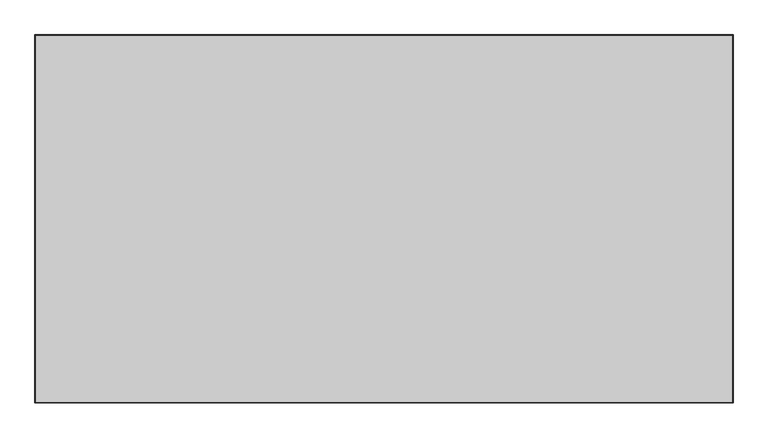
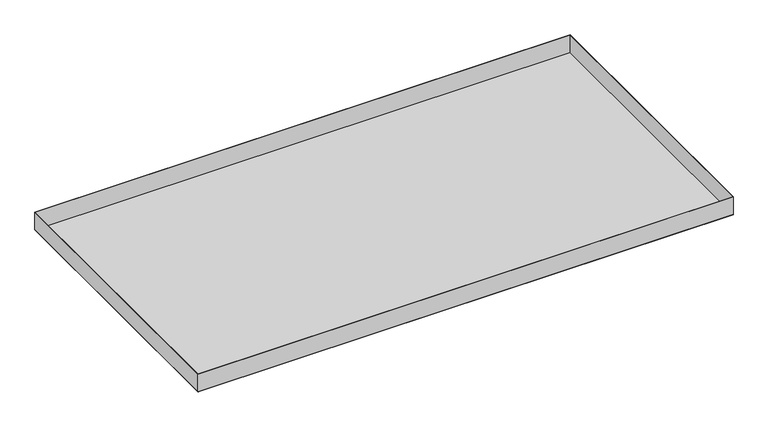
"""IFC4 building model written with IfcOpenShell, lengths in millimetres: proxy geometry, durlum_S-OM-63 : durlum_S-OM-63_panel."""

import ifcopenshell
import ifcopenshell.guid

model = None  # the IFC model being written
_history = None  # IfcOwnerHistory: only IFC2X3 demands one
_inside = {}  # id of a spatial element -> (the spatial element, [elements in it])
_under = {}  # id of a project, library or spatial element -> (it, [spatial elements below it])
_declared = {}  # id of a project -> (the project, [libraries it declares])
_typed = {}  # id of a type object -> (the type object, [elements of that type])
_made_of = {}  # id of a material, layer set ... -> (it, [elements and type objects made of it])


def new_model(schema):
    """Start an empty IFC model of exactly this schema.

    Asked for "IFC4X3", IfcOpenShell would pick the latest addendum, in which some entities
    have other attributes; the version numbers below select the first issue.
    IFC2X3 requires an IfcOwnerHistory on every rooted entity: one is made here for all.
    """
    global model, _history
    if schema == "IFC4X3":
        model = ifcopenshell.file(schema_version=(4, 3, 0, 0))
    else:
        model = ifcopenshell.file(schema=schema)
    _inside.clear()
    _under.clear()
    _declared.clear()
    _typed.clear()
    _made_of.clear()
    _history = None
    if model.schema == "IFC2X3":
        org = make("IfcOrganization", Name="unknown")
        user = make(
            "IfcPersonAndOrganization",
            ThePerson=make("IfcPerson", FamilyName="unknown"),
            TheOrganization=org,
        )
        app = make(
            "IfcApplication",
            ApplicationDeveloper=org,
            Version="unknown",
            ApplicationFullName="unknown",
            ApplicationIdentifier="unknown",
        )
        _history = make(
            "IfcOwnerHistory",
            OwningUser=user,
            OwningApplication=app,
            ChangeAction="ADDED",
            CreationDate=0,
        )
    return model


def make(cls, **values):
    """One entity of the class cls with the attributes given. An attribute that is None is left unset."""
    return model.create_entity(
        cls, **{name: value for name, value in values.items() if value is not None}
    )


def rooted(cls, **values):
    """An entity with a GlobalId (a new one), such as an element, a storey or a relation."""
    return make(cls, GlobalId=ifcopenshell.guid.new(), OwnerHistory=_history, **values)


def si_unit(unit_type, name, prefix=None):
    """IfcSIUnit, for example si_unit("LENGTHUNIT", "METRE", prefix="MILLI")."""
    return make("IfcSIUnit", UnitType=unit_type, Prefix=prefix, Name=name)


def assignment(units):
    """IfcUnitAssignment: the units of a project."""
    return None if units is None else make("IfcUnitAssignment", Units=units)


def point(xyz):
    """IfcCartesianPoint."""
    return None if xyz is None else make("IfcCartesianPoint", Coordinates=xyz)


def direction(xyz):
    """IfcDirection."""
    return None if xyz is None else make("IfcDirection", DirectionRatios=xyz)


def frame(location, z_axis=None, x_axis=None):
    """IfcAxis2Placement3D, a coordinate frame: its origin and axes. An axis left out is left unset."""
    return make(
        "IfcAxis2Placement3D",
        Location=point(location),
        Axis=direction(z_axis),
        RefDirection=direction(x_axis),
    )


def origin():
    """The frame at (0, 0, 0) with its axes left unset."""
    return frame((0.0, 0.0, 0.0))


def origin_with_axes():
    """The frame at (0, 0, 0) with the z axis (0, 0, 1) and the x axis (1, 0, 0) written out."""
    return frame((0.0, 0.0, 0.0), z_axis=(0.0, 0.0, 1.0), x_axis=(1.0, 0.0, 0.0))


def place(relative_to, where):
    """IfcLocalPlacement: puts the frame where relative to a parent placement (None: the world)."""
    return make(
        "IfcLocalPlacement", PlacementRelTo=relative_to, RelativePlacement=where
    )


def context(
    kind, dimensions, precision=None, world=None, true_north=None, identifier=None
):
    """IfcGeometricRepresentationContext, for example the 3D "Model" context."""
    return make(
        "IfcGeometricRepresentationContext",
        ContextIdentifier=identifier,
        ContextType=kind,
        CoordinateSpaceDimension=dimensions,
        Precision=precision,
        WorldCoordinateSystem=world,
        TrueNorth=true_north,
    )


def project(units=None, contexts=None):
    """IfcProject with its units and contexts."""
    return rooted(
        "IfcProject",
        Name="project",
        RepresentationContexts=contexts,
        UnitsInContext=assignment(units),
    )


def spatial(cls, under=None, at=None, **own):
    """A site, building, storey or space (cls), placed at a placement, below another one or the project."""
    s = rooted(cls, ObjectPlacement=at, **own)
    if under is not None:
        _under.setdefault(under.id(), (under, []))[1].append(s)
    return s


def polyline(points):
    """IfcPolyline through the points."""
    return make("IfcPolyline", Points=[point(p) for p in points])


def outline(outer, holes=None, kind="AREA"):
    """IfcArbitraryClosedProfileDef: a profile drawn as a closed curve; with holes, ...WithVoids."""
    if holes is None:
        return make("IfcArbitraryClosedProfileDef", ProfileType=kind, OuterCurve=outer)
    return make(
        "IfcArbitraryProfileDefWithVoids",
        ProfileType=kind,
        OuterCurve=outer,
        InnerCurves=holes,
    )


def extrude(swept, where, along, depth):
    """IfcExtrudedAreaSolid: the profile swept, set in the frame where, extruded along a direction by depth."""
    return make(
        "IfcExtrudedAreaSolid",
        SweptArea=swept,
        Position=where,
        ExtrudedDirection=direction(along),
        Depth=depth,
    )


def shape(context_of_items, identifier, shape_type, items):
    """IfcShapeRepresentation: the items that make up one representation, for example the "Body"."""
    return make(
        "IfcShapeRepresentation",
        ContextOfItems=context_of_items,
        RepresentationIdentifier=identifier,
        RepresentationType=shape_type,
        Items=items,
    )


def source(mapping_origin, context_of_items, identifier, shape_type, items):
    """IfcRepresentationMap: a shape defined once, which mapped items show again and again."""
    return make(
        "IfcRepresentationMap",
        MappingOrigin=mapping_origin,
        MappedRepresentation=shape(context_of_items, identifier, shape_type, items),
    )


def transform(
    local_origin,
    x_axis=None,
    y_axis=None,
    z_axis=None,
    scale=None,
    scale2=None,
    scale3=None,
    uniform=True,
):
    """IfcCartesianTransformationOperator3D, or its non-uniform kind. x_axis, y_axis, z_axis: its Axis1, 2, 3."""
    if uniform:
        return make(
            "IfcCartesianTransformationOperator3D",
            Axis1=direction(x_axis),
            Axis2=direction(y_axis),
            LocalOrigin=point(local_origin),
            Scale=scale,
            Axis3=direction(z_axis),
        )
    return make(
        "IfcCartesianTransformationOperator3DnonUniform",
        Axis1=direction(x_axis),
        Axis2=direction(y_axis),
        LocalOrigin=point(local_origin),
        Scale=scale,
        Axis3=direction(z_axis),
        Scale2=scale2,
        Scale3=scale3,
    )


def mapped(mapping_source, mapping_target):
    """IfcMappedItem: shows the shape of a source again, moved by a transform."""
    return make(
        "IfcMappedItem", MappingSource=mapping_source, MappingTarget=mapping_target
    )


def made_of(thing, what):
    """Note that an element or type object is made of a material, layer set ...; save() writes the relation."""
    if what is not None:
        _made_of.setdefault(what.id(), (what, []))[1].append(thing)
    return thing


def element(
    cls,
    number,
    at=None,
    inside=None,
    cuts=None,
    type_object=None,
    material=None,
    context=None,
    identifier="Body",
    shape_type=None,
    held_by="IfcProductDefinitionShape",
    body=None,
    shapes=None,
    **own,
):
    """One element of the class cls, such as IfcWall. Its Tag is "e" and its number.

    at: its placement. inside: the storey or other place that contains it. cuts: it is an
    opening in that element (IfcRelVoidsElement). A single representation is given by context,
    identifier, shape_type and body (its items); several are given by shapes. held_by: the class
    of the entity that holds the representations. save() writes the other relations.
    """
    e = rooted(cls, Tag="e%d" % number, ObjectPlacement=at, **own)
    if body is not None:
        shapes = [shape(context, identifier, shape_type, body)]
    if shapes is not None:
        e.Representation = make(held_by, Representations=shapes)
    if inside is not None:
        _inside.setdefault(inside.id(), (inside, []))[1].append(e)
    if cuts is not None:
        rooted(
            "IfcRelVoidsElement", RelatingBuildingElement=cuts, RelatedOpeningElement=e
        )
    if type_object is not None:
        _typed.setdefault(type_object.id(), (type_object, []))[1].append(e)
    return made_of(e, material)


def aggregate(whole, parts):
    """IfcRelAggregates: a whole, such as a stair, and the parts it consists of."""
    return rooted("IfcRelAggregates", RelatingObject=whole, RelatedObjects=parts)


def save(model, path):
    """Write the relations noted so far, then the file.

    IfcRelAggregates (storeys below a building ...), IfcRelContainedInSpatialStructure (elements
    in a storey), IfcRelDefinesByType, IfcRelAssociatesMaterial and IfcRelDeclares: one each for
    every whole, place, type object, material and project.
    """
    for whole, parts in _under.values():
        aggregate(whole, parts)
    for where, things in _inside.values():
        rooted(
            "IfcRelContainedInSpatialStructure",
            RelatedElements=things,
            RelatingStructure=where,
        )
    for kind, things in _typed.values():
        rooted("IfcRelDefinesByType", RelatedObjects=things, RelatingType=kind)
    for what, things in _made_of.values():
        rooted("IfcRelAssociatesMaterial", RelatedObjects=things, RelatingMaterial=what)
    for by, libraries in _declared.values():
        rooted("IfcRelDeclares", RelatingContext=by, RelatedDefinitions=libraries)
    model.write(path)


def generic_models_9ae9bc9c(model_context):
    return source(origin(), model_context, "Body", "SweptSolid", [
        extrude(outline(polyline([(567.45, 299.5), (567.45, -299.5), (-567.45, -299.5), (-567.45, 299.5), (567.45, 299.5)]), holes=[polyline([(566.85, 298.9), (-566.85, 298.9), (-566.85, -298.9), (566.85, -298.9), (566.85, 298.9)])]), frame((0.0, 0.0, 0.6), z_axis=(0.0, 0.0, 1.0), x_axis=(1.0, 0.0, 0.0)), (0.0, 0.0, 1.0), 39.4),
        extrude(outline(polyline([(566.45, 298.5), (566.45, -298.5), (-566.45, -298.5), (-566.45, 298.5), (566.45, 298.5)])), frame((0.0, 0.0, 0.6), z_axis=(0.0, 0.0, 1.0), x_axis=(1.0, 0.0, 0.0)), (0.0, 0.0, 1.0), 0.6),
        extrude(outline(polyline([(567.45, 299.5), (567.45, -299.5), (-567.45, -299.5), (-567.45, 299.5), (567.45, 299.5)]), holes=[polyline([(566.45, 298.5), (-566.45, 298.5), (-566.45, -298.5), (566.45, -298.5), (566.45, 298.5)])]), origin_with_axes(), (0.0, 0.0, 1.0), 0.6),
        extrude(outline(polyline([(566.45, 298.5), (566.45, -298.5), (-566.45, -298.5), (-566.45, 298.5), (566.45, 298.5)])), origin_with_axes(), (0.0, 0.0, 1.0), 0.6),
    ])


if __name__ == "__main__":
    model = new_model("IFC4")
    model_context = context("Model", 3, world=origin())
    ifc_project = project(units=[si_unit("LENGTHUNIT", "METRE", prefix="MILLI")], contexts=[model_context])
    site = spatial("IfcSite", under=ifc_project)
    building = spatial("IfcBuilding", under=site)
    placement = place(None, origin())
    generic_models_shape = generic_models_9ae9bc9c(model_context)
    element("IfcBuildingElementProxy", 1, Name="durlum_S-OM-63 : durlum_S-OM-63_panel", ObjectType="durlum_S-OM-63 : durlum_S-OM-63_panel", at=placement, inside=building, context=model_context, shape_type="MappedRepresentation", body=[
        mapped(generic_models_shape, transform((0.0, 0.0, 0.0), x_axis=(1.0, 0.0, 0.0), y_axis=(0.0, 1.0, 0.0), z_axis=(0.0, 0.0, 1.0))),
    ])
    save(model, "model.ifc")
